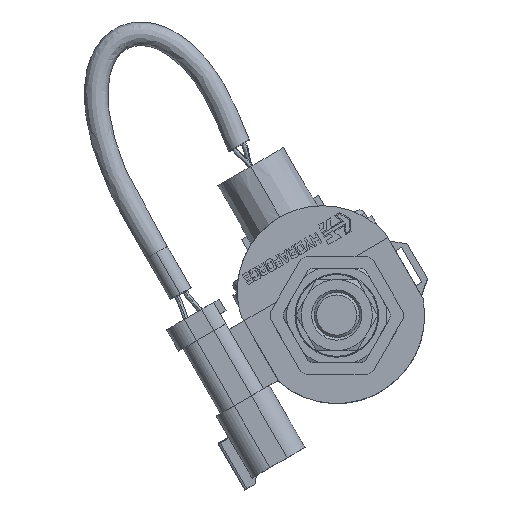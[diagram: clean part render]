
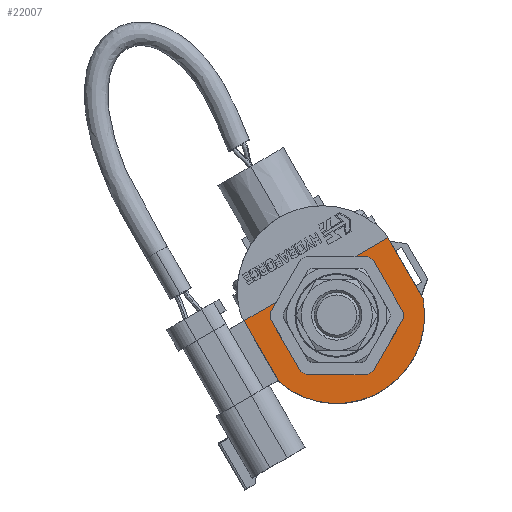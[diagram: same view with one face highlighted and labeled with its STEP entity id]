
A CAD part, top view. The second image highlights one B-rep face of the part: STEP entity #22007.
In plain terms, the highlighted planar face has unit normal (0, 0, 1).
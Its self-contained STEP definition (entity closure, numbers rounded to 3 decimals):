
#1347=CARTESIAN_POINT('',(0.,0.,38.557));
#1348=DIRECTION('',(0.,0.,1.));
#1349=DIRECTION('',(-0.993,0.115,0.));
#1350=AXIS2_PLACEMENT_3D('',#1347,#1348,#1349);
#1352=CARTESIAN_POINT('',(0.,0.,38.557));
#1353=DIRECTION('',(0.,0.,1.));
#1354=DIRECTION('',(-0.866,-0.5,0.));
#1355=AXIS2_PLACEMENT_3D('',#1352,#1353,#1354);
#1357=CARTESIAN_POINT('',(0.,0.,38.557));
#1358=DIRECTION('',(0.,0.,1.));
#1359=DIRECTION('',(0.866,0.5,0.));
#1360=AXIS2_PLACEMENT_3D('',#1357,#1358,#1359);
#1362=DIRECTION('',(-0.5,0.866,0.));
#1363=VECTOR('',#1362,2.921);
#1364=CARTESIAN_POINT('',(5.546,12.822,38.557));
#1365=LINE('',#1364,#1363);
#1366=DIRECTION('',(0.866,0.5,0.));
#1367=VECTOR('',#1366,11.062);
#1368=CARTESIAN_POINT('',(4.086,15.352,38.557));
#1369=LINE('',#1368,#1367);
#1370=DIRECTION('',(0.5,-0.866,0.));
#1371=VECTOR('',#1370,18.923);
#1372=CARTESIAN_POINT('',(13.665,20.883,38.557));
#1373=LINE('',#1372,#1371);
#1374=CARTESIAN_POINT('',(0.,0.,38.557));
#1375=DIRECTION('',(0.,0.,-1.));
#1376=DIRECTION('',(0.982,0.191,0.));
#1377=AXIS2_PLACEMENT_3D('',#1374,#1375,#1376);
#1379=DIRECTION('',(-0.5,0.866,0.));
#1380=VECTOR('',#1379,18.923);
#1381=CARTESIAN_POINT('',(-15.456,-17.781,38.557));
#1382=LINE('',#1381,#1380);
#1383=DIRECTION('',(0.866,0.5,0.));
#1384=VECTOR('',#1383,11.062);
#1385=CARTESIAN_POINT('',(-24.918,-1.393,38.557));
#1386=LINE('',#1385,#1384);
#1387=DIRECTION('',(0.5,-0.866,0.));
#1388=VECTOR('',#1387,2.921);
#1389=CARTESIAN_POINT('',(-15.338,4.138,38.557));
#1390=LINE('',#1389,#1388);
#19142=CARTESIAN_POINT('',(-24.918,-1.393,38.557));
#19143=VERTEX_POINT('',#19142);
#19144=CARTESIAN_POINT('',(-15.456,-17.781,38.557));
#19145=VERTEX_POINT('',#19144);
#19156=CARTESIAN_POINT('',(-13.877,1.608,38.557));
#19157=CARTESIAN_POINT('',(-12.098,-6.985,38.557));
#19158=VERTEX_POINT('',#19156);
#19159=VERTEX_POINT('',#19157);
#19160=CARTESIAN_POINT('',(12.098,6.985,38.557));
#19161=VERTEX_POINT('',#19160);
#19162=CARTESIAN_POINT('',(5.546,12.822,38.557));
#19163=VERTEX_POINT('',#19162);
#19164=CARTESIAN_POINT('',(4.086,15.352,38.557));
#19165=VERTEX_POINT('',#19164);
#19166=CARTESIAN_POINT('',(13.665,20.883,38.557));
#19167=VERTEX_POINT('',#19166);
#19168=CARTESIAN_POINT('',(23.127,4.495,38.557));
#19169=VERTEX_POINT('',#19168);
#19170=CARTESIAN_POINT('',(-15.338,4.138,38.557));
#19171=VERTEX_POINT('',#19170);
#21984=CARTESIAN_POINT('',(-5.626,9.745,38.557));
#21985=DIRECTION('',(0.,0.,1.));
#21986=DIRECTION('',(-0.5,0.866,0.));
#21987=AXIS2_PLACEMENT_3D('',#21984,#21985,#21986);
#21988=PLANE('',#21987);
#21990=ORIENTED_EDGE('',*,*,#21989,.T.);
#21992=ORIENTED_EDGE('',*,*,#21991,.T.);
#21994=ORIENTED_EDGE('',*,*,#21993,.T.);
#21995=ORIENTED_EDGE('',*,*,#21599,.T.);
#21996=ORIENTED_EDGE('',*,*,#21643,.T.);
#21998=ORIENTED_EDGE('',*,*,#21997,.T.);
#22000=ORIENTED_EDGE('',*,*,#21999,.T.);
#22002=ORIENTED_EDGE('',*,*,#22001,.T.);
#22003=ORIENTED_EDGE('',*,*,#21629,.T.);
#22004=ORIENTED_EDGE('',*,*,#21566,.T.);
#22005=EDGE_LOOP('',(#21990,#21992,#21994,#21995,#21996,#21998,#22000,#22002,
#22003,#22004));
#22006=FACE_OUTER_BOUND('',#22005,.F.);
#22007=ADVANCED_FACE('',(#22006),#21988,.T.);
#1351=CIRCLE('',#1350,13.97);
#1356=CIRCLE('',#1355,13.97);
#1361=CIRCLE('',#1360,13.97);
#1378=CIRCLE('',#1377,23.56);
#21566=EDGE_CURVE('',#19171,#19158,#1390,.T.);
#21599=EDGE_CURVE('',#19163,#19165,#1365,.T.);
#21629=EDGE_CURVE('',#19143,#19171,#1386,.T.);
#21643=EDGE_CURVE('',#19165,#19167,#1369,.T.);
#21989=EDGE_CURVE('',#19158,#19159,#1351,.T.);
#21991=EDGE_CURVE('',#19159,#19161,#1356,.T.);
#21993=EDGE_CURVE('',#19161,#19163,#1361,.T.);
#21997=EDGE_CURVE('',#19167,#19169,#1373,.T.);
#21999=EDGE_CURVE('',#19169,#19145,#1378,.T.);
#22001=EDGE_CURVE('',#19145,#19143,#1382,.T.);
